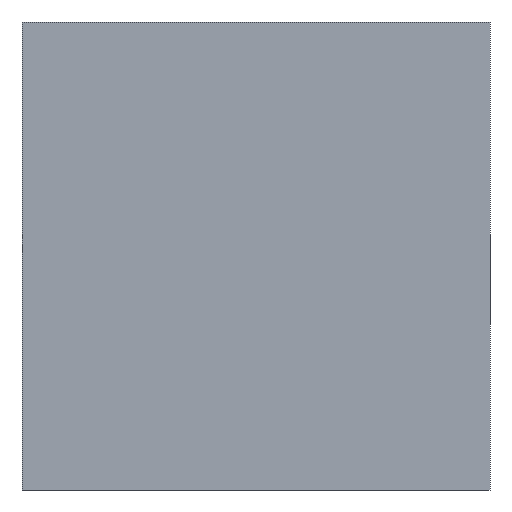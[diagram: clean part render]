
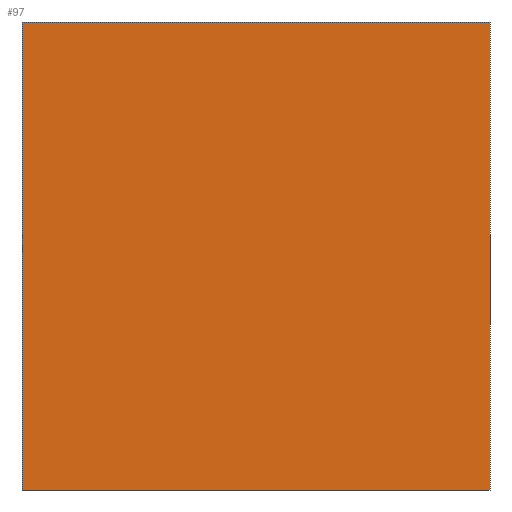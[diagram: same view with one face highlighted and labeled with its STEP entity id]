
A CAD part, front view. The second image highlights one B-rep face of the part: STEP entity #97.
In plain terms, the highlighted planar face has unit normal (0, -1, 0).
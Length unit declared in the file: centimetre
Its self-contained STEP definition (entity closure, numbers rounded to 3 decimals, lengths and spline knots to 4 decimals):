
#10 = CARTESIAN_POINT ( 'NONE',  ( 1000., 0., 1000. ) ) ;
#24 = DIRECTION ( 'NONE',  ( 1., 0., 0. ) ) ;
#30 = DIRECTION ( 'NONE',  ( 0., 0., 1. ) ) ;
#38 = VECTOR ( 'NONE', #24, 100. ) ;
#53 = ORIENTED_EDGE ( 'NONE', *, *, #221, .F. ) ;
#75 = LINE ( 'NONE', #261, #342 ) ;
#83 = DIRECTION ( 'NONE',  ( 1., 0., 0. ) ) ;
#97 = ADVANCED_FACE ( 'NONE', ( #109 ), #340, .F. ) ;
#109 = FACE_OUTER_BOUND ( 'NONE', #333, .T. ) ;
#153 = LINE ( 'NONE', #308, #38 ) ;
#156 = EDGE_CURVE ( 'NONE', #297, #417, #153, .T. ) ;
#163 = EDGE_CURVE ( 'NONE', #451, #417, #75, .T. ) ;
#173 = LINE ( 'NONE', #248, #492 ) ;
#175 = ORIENTED_EDGE ( 'NONE', *, *, #156, .T. ) ;
#176 = CARTESIAN_POINT ( 'NONE',  ( 1000., 0., 0. ) ) ;
#209 = VECTOR ( 'NONE', #83, 100. ) ;
#221 = EDGE_CURVE ( 'NONE', #461, #451, #244, .T. ) ;
#224 = ORIENTED_EDGE ( 'NONE', *, *, #163, .F. ) ;
#232 = DIRECTION ( 'NONE',  ( 0., 0., -1. ) ) ;
#239 = CARTESIAN_POINT ( 'NONE',  ( 0., 0., 0. ) ) ;
#244 = LINE ( 'NONE', #319, #209 ) ;
#248 = CARTESIAN_POINT ( 'NONE',  ( 0., 0., 1000. ) ) ;
#261 = CARTESIAN_POINT ( 'NONE',  ( 1000., 0., 1000. ) ) ;
#293 = CARTESIAN_POINT ( 'NONE',  ( 0., 0., 1000. ) ) ;
#297 = VERTEX_POINT ( 'NONE', #239 ) ;
#308 = CARTESIAN_POINT ( 'NONE',  ( 0., 0., 0. ) ) ;
#319 = CARTESIAN_POINT ( 'NONE',  ( 0., 0., 1000. ) ) ;
#333 = EDGE_LOOP ( 'NONE', ( #175, #224, #53, #349 ) ) ;
#340 = PLANE ( 'NONE',  #371 ) ;
#342 = VECTOR ( 'NONE', #232, 100. ) ;
#349 = ORIENTED_EDGE ( 'NONE', *, *, #400, .T. ) ;
#351 = CARTESIAN_POINT ( 'NONE',  ( 0., 0., 1000. ) ) ;
#371 = AXIS2_PLACEMENT_3D ( 'NONE', #351, #391, #30 ) ;
#391 = DIRECTION ( 'NONE',  ( 0., 1., 0. ) ) ;
#400 = EDGE_CURVE ( 'NONE', #461, #297, #173, .T. ) ;
#417 = VERTEX_POINT ( 'NONE', #176 ) ;
#451 = VERTEX_POINT ( 'NONE', #10 ) ;
#454 = DIRECTION ( 'NONE',  ( 0., 0., -1. ) ) ;
#461 = VERTEX_POINT ( 'NONE', #293 ) ;
#492 = VECTOR ( 'NONE', #454, 100. ) ;
